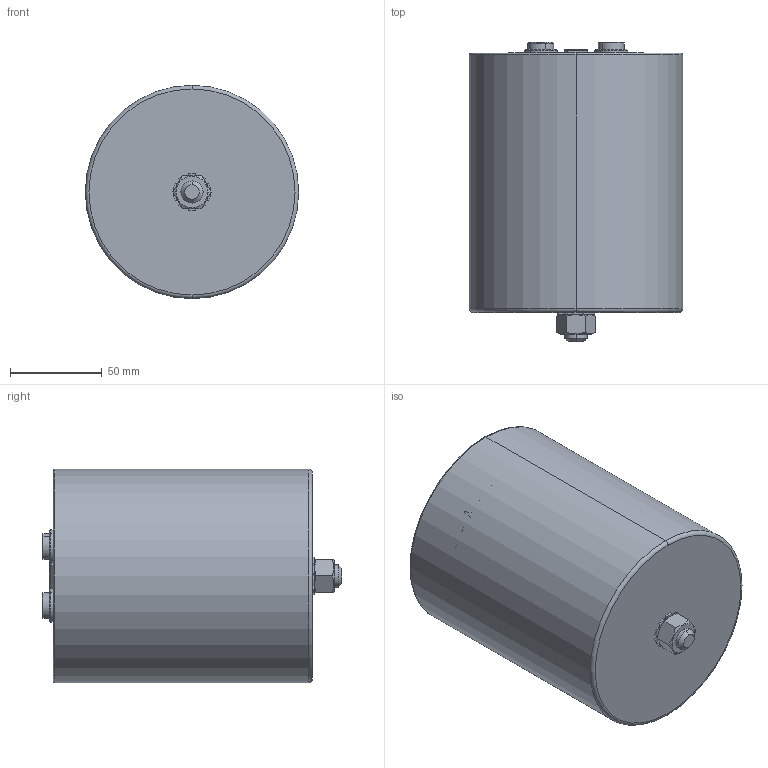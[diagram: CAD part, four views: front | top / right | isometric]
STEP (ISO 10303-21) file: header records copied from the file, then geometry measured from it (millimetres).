
FILE_DESCRIPTION (( 'STEP AP203' ), '1' );
FILE_NAME ('B25690Ax_116x141_147.STEP', '2021-09-07T04:15:25', ( '' ), ( '' ), 'SwSTEP 2.0', 'SolidWorks 2017', '' );
FILE_SCHEMA (( 'CONFIG_CONTROL_DESIGN' ));
Length unit declared in the file: millimetre
Products named in the file (1): B25690Ax_116x141_147
Bounding box: 116 x 163 x 116 mm (x, y, z)
Volume: 188014.5 mm3; surface area: 147817.8 mm2
Topology: 1 solids, 3 shells, 263 faces, 675 edges, 423 vertices
Faces by surface type: plane 135, cylinder 76, cone 40, torus 8, sphere 4
Entity records: 8245 total; most frequent: CARTESIAN_POINT 1902, DIRECTION 1342, ORIENTED_EDGE 1342, EDGE_CURVE 671, AXIS2_PLACEMENT_3D 527, VERTEX_POINT 423, LINE 288, VECTOR 288
